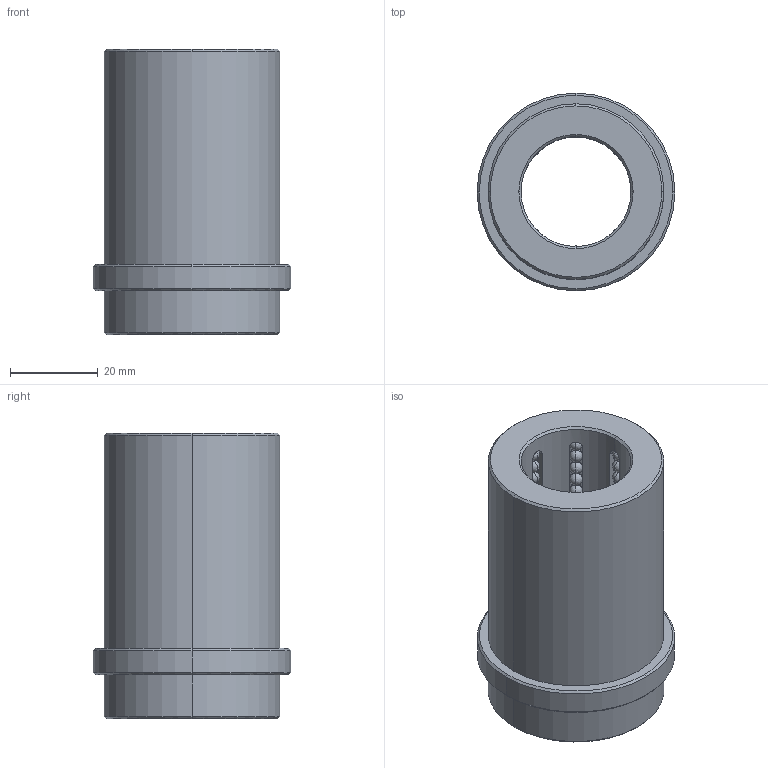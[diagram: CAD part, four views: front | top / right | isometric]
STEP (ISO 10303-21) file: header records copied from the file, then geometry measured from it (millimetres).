
FILE_DESCRIPTION(('CATIA V5 STEP Exchange'),'2;1');
FILE_NAME('C:\Users\Raffaele\Desktop\3D BOLEX\3D FILES CF BOLEX\2-BUSH REF 802\B8022555.stp','2019-06-19T13:55:14+00:00',('none'),('none'),'CATIA Version 5 Release 20 GA (IN-10)','CATIA V5 STEP AP203','none');
FILE_SCHEMA(('CONFIG_CONTROL_DESIGN'));
Length unit declared in the file: millimetre
Products named in the file (1): B8022555
Bounding box: 45 x 45 x 65 mm (x, y, z)
Volume: 49745.5 mm3; surface area: 22249.2 mm2
Topology: 145 solids, 145 shells, 652 faces, 1914 edges, 408 vertices
Faces by surface type: sphere 576, plane 28, cylinder 24, cone 24
Entity records: 12123 total; most frequent: CARTESIAN_POINT 2302, DIRECTION 2026, ORIENTED_EDGE 1524, AXIS2_PLACEMENT_3D 1277, EDGE_CURVE 762, EDGE_LOOP 662, ADVANCED_FACE 652, FACE_OUTER_BOUND 652
